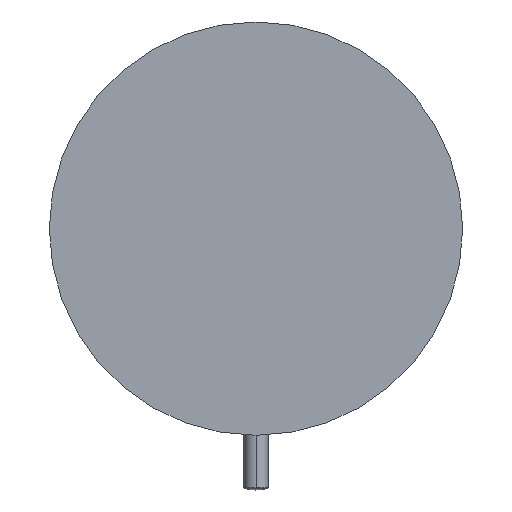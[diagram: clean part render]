
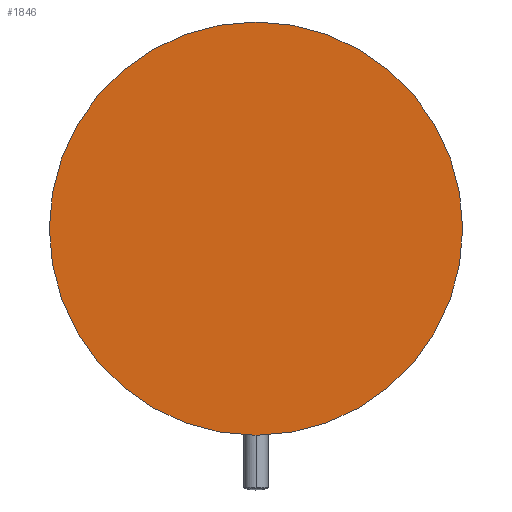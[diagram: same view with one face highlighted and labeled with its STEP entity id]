
A CAD part, front view. The second image highlights one B-rep face of the part: STEP entity #1846.
In plain terms, the highlighted planar face has unit normal (0, -1, 0).
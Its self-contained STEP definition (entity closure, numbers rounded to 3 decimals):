
#96 = DIRECTION ( 'NONE',  ( -1., 0., 0. ) ) ;
#624 = DIRECTION ( 'NONE',  ( -1., 0., 0. ) ) ;
#799 = AXIS2_PLACEMENT_3D ( 'NONE', #1037, #1000, #1058 ) ;
#1000 = DIRECTION ( 'NONE',  ( 0., 1., 0. ) ) ;
#1005 = ORIENTED_EDGE ( 'NONE', *, *, #3694, .F. ) ;
#1028 = VERTEX_POINT ( 'NONE', #2297 ) ;
#1037 = CARTESIAN_POINT ( 'NONE',  ( 55., 39.2, -52.5 ) ) ;
#1058 = DIRECTION ( 'NONE',  ( -1., 0., 0. ) ) ;
#1273 = DIRECTION ( 'NONE',  ( 0., 1., 0. ) ) ;
#1316 = FACE_OUTER_BOUND ( 'NONE', #2241, .T. ) ;
#1352 = AXIS2_PLACEMENT_3D ( 'NONE', #4142, #4092, #96 ) ;
#1686 = PLANE ( 'NONE',  #799 ) ;
#1689 = VERTEX_POINT ( 'NONE', #2643 ) ;
#1784 = CIRCLE ( 'NONE', #1352, 85. ) ;
#1846 = ADVANCED_FACE ( 'NONE', ( #1316 ), #1686, .F. ) ;
#1969 = ORIENTED_EDGE ( 'NONE', *, *, #3044, .F. ) ;
#2241 = EDGE_LOOP ( 'NONE', ( #1969, #1005 ) ) ;
#2297 = CARTESIAN_POINT ( 'NONE',  ( 85., 39.2, 30. ) ) ;
#2643 = CARTESIAN_POINT ( 'NONE',  ( -85., 39.2, 30. ) ) ;
#3044 = EDGE_CURVE ( 'NONE', #1689, #1028, #1784, .T. ) ;
#3636 = CIRCLE ( 'NONE', #4710, 85. ) ;
#3694 = EDGE_CURVE ( 'NONE', #1028, #1689, #3636, .T. ) ;
#3914 = CARTESIAN_POINT ( 'NONE',  ( 0., 39.2, 30. ) ) ;
#4092 = DIRECTION ( 'NONE',  ( 0., 1., 0. ) ) ;
#4142 = CARTESIAN_POINT ( 'NONE',  ( 0., 39.2, 30. ) ) ;
#4710 = AXIS2_PLACEMENT_3D ( 'NONE', #3914, #1273, #624 ) ;
